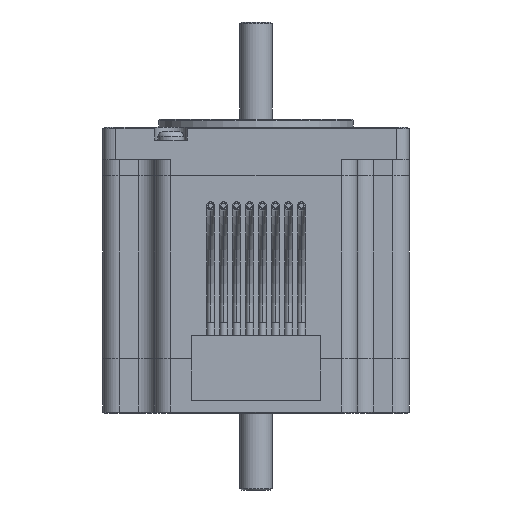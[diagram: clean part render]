
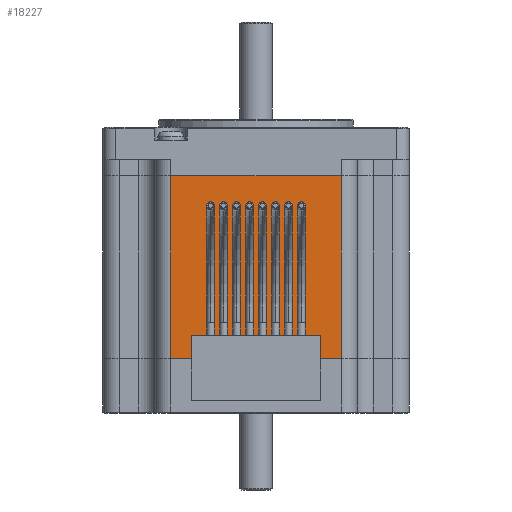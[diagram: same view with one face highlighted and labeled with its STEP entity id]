
A CAD part, front view. The second image highlights one B-rep face of the part: STEP entity #18227.
In plain terms, the highlighted planar face has unit normal (0, -1, 0).
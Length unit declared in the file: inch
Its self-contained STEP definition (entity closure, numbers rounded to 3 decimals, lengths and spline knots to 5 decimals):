
#5201 = CARTESIAN_POINT ( 'NONE',  ( 0.655, -1.179, -0.375 ) ) ;
#5249 = LINE ( 'NONE', #5302, #5301 ) ;
#5284 = CARTESIAN_POINT ( 'NONE',  ( -0.655, -1.179, -0.375 ) ) ;
#5300 = DIRECTION ( 'NONE',  ( -1., 0., 0. ) ) ;
#5301 = VECTOR ( 'NONE', #5300, 39.37008 ) ;
#5302 = CARTESIAN_POINT ( 'NONE',  ( 0.655, -1.179, -0.375 ) ) ;
#9443 = VERTEX_POINT ( 'NONE', #5201 ) ;
#9515 = EDGE_CURVE ( 'NONE', #9443, #9521, #5249, .T. ) ;
#9521 = VERTEX_POINT ( 'NONE', #5284 ) ;
#13611 = LINE ( 'NONE', #13652, #13651 ) ;
#13650 = DIRECTION ( 'NONE',  ( 0., 0., 1. ) ) ;
#13651 = VECTOR ( 'NONE', #13650, 39.37008 ) ;
#13652 = CARTESIAN_POINT ( 'NONE',  ( 0.655, -1.179, -1.78 ) ) ;
#14849 = PLANE ( 'NONE',  #14869 ) ;
#14869 = AXIS2_PLACEMENT_3D ( 'NONE', #14893, #14892, #14891 ) ;
#14872 = FACE_OUTER_BOUND ( 'NONE', #18235, .T. ) ;
#14891 = DIRECTION ( 'NONE',  ( -1., 0., 0. ) ) ;
#14892 = DIRECTION ( 'NONE',  ( 0., 1., 0. ) ) ;
#14893 = CARTESIAN_POINT ( 'NONE',  ( 0.655, -1.179, -1.78 ) ) ;
#14895 = CARTESIAN_POINT ( 'NONE',  ( -0.655, -1.179, -1.78 ) ) ;
#14935 = DIRECTION ( 'NONE',  ( 0., 0., 1. ) ) ;
#14936 = VECTOR ( 'NONE', #14935, 39.37008 ) ;
#14937 = CARTESIAN_POINT ( 'NONE',  ( -0.655, -1.179, -1.78 ) ) ;
#14938 = LINE ( 'NONE', #14937, #14936 ) ;
#14957 = DIRECTION ( 'NONE',  ( -1., 0., 0. ) ) ;
#14958 = VECTOR ( 'NONE', #14957, 39.37008 ) ;
#14959 = CARTESIAN_POINT ( 'NONE',  ( 0.655, -1.179, -1.78 ) ) ;
#14969 = LINE ( 'NONE', #14959, #14958 ) ;
#14996 = CARTESIAN_POINT ( 'NONE',  ( 0.655, -1.179, -1.78 ) ) ;
#16794 = EDGE_CURVE ( 'NONE', #18247, #9443, #13611, .T. ) ;
#18182 = ORIENTED_EDGE ( 'NONE', *, *, #18239, .F. ) ;
#18227 = ADVANCED_FACE ( 'NONE', ( #14872 ), #14849, .F. ) ;
#18228 = VERTEX_POINT ( 'NONE', #14895 ) ;
#18229 = ORIENTED_EDGE ( 'NONE', *, *, #18232, .F. ) ;
#18232 = EDGE_CURVE ( 'NONE', #18228, #9521, #14938, .T. ) ;
#18235 = EDGE_LOOP ( 'NONE', ( #18250, #18229, #18182, #18273 ) ) ;
#18239 = EDGE_CURVE ( 'NONE', #18247, #18228, #14969, .T. ) ;
#18247 = VERTEX_POINT ( 'NONE', #14996 ) ;
#18250 = ORIENTED_EDGE ( 'NONE', *, *, #9515, .T. ) ;
#18273 = ORIENTED_EDGE ( 'NONE', *, *, #16794, .T. ) ;
